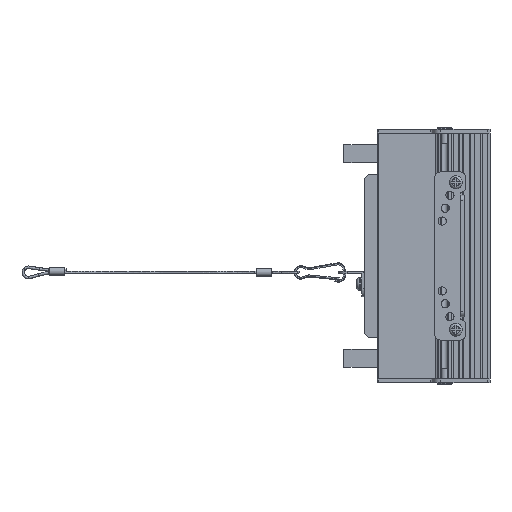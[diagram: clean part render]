
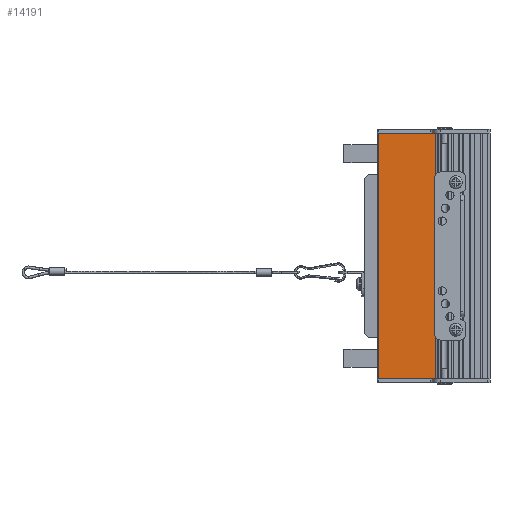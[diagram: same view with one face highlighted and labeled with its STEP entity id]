
A CAD part, left-side view. The second image highlights one B-rep face of the part: STEP entity #14191.
In plain terms, the highlighted planar face has unit normal (-1, 0, 0).
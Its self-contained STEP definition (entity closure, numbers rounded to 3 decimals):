
#14191=ADVANCED_FACE('',(#17916),#15252,.F.);
#15252=PLANE('',#55116);
#17916=FACE_OUTER_BOUND('',#21486,.T.);
#21486=EDGE_LOOP('',(#34537,#34538,#34539,#34540));
#34537=ORIENTED_EDGE('',*,*,#46604,.T.);
#34538=ORIENTED_EDGE('',*,*,#46811,.F.);
#34539=ORIENTED_EDGE('',*,*,#46812,.T.);
#34540=ORIENTED_EDGE('',*,*,#46813,.F.);
#39790=VERTEX_POINT('',#132971);
#39791=VERTEX_POINT('',#132973);
#39996=VERTEX_POINT('',#133387);
#39997=VERTEX_POINT('',#133389);
#46604=EDGE_CURVE('',#39791,#39790,#49407,.T.);
#46811=EDGE_CURVE('',#39996,#39790,#49601,.T.);
#46812=EDGE_CURVE('',#39996,#39997,#49602,.T.);
#46813=EDGE_CURVE('',#39791,#39997,#49603,.T.);
#49407=LINE('',#132972,#52163);
#49601=LINE('',#133386,#52357);
#49602=LINE('',#133388,#52358);
#49603=LINE('',#133390,#52359);
#52163=VECTOR('',#62000,1.);
#52357=VECTOR('',#62224,1.);
#52358=VECTOR('',#62225,1.);
#52359=VECTOR('',#62226,1.);
#55116=AXIS2_PLACEMENT_3D('',#133391,#62227,#62228);
#62000=DIRECTION('',(0.,1.,0.));
#62224=DIRECTION('',(0.,0.,1.));
#62225=DIRECTION('',(0.,-1.,0.));
#62226=DIRECTION('',(0.,0.,-1.));
#62227=DIRECTION('',(1.,0.,0.));
#62228=DIRECTION('',(0.,0.,1.));
#132971=CARTESIAN_POINT('',(1100.17,-462.232,-114.7));
#132972=CARTESIAN_POINT('',(1100.17,-498.52,-114.7));
#132973=CARTESIAN_POINT('',(1100.17,-484.343,-114.7));
#133386=CARTESIAN_POINT('',(1100.17,-462.232,-89.2));
#133387=CARTESIAN_POINT('',(1100.17,-462.232,-209.7));
#133388=CARTESIAN_POINT('',(1100.17,-498.52,-209.7));
#133389=CARTESIAN_POINT('',(1100.17,-484.343,-209.7));
#133390=CARTESIAN_POINT('',(1100.17,-484.343,-89.2));
#133391=CARTESIAN_POINT('',(1100.17,-471.343,-89.2));
